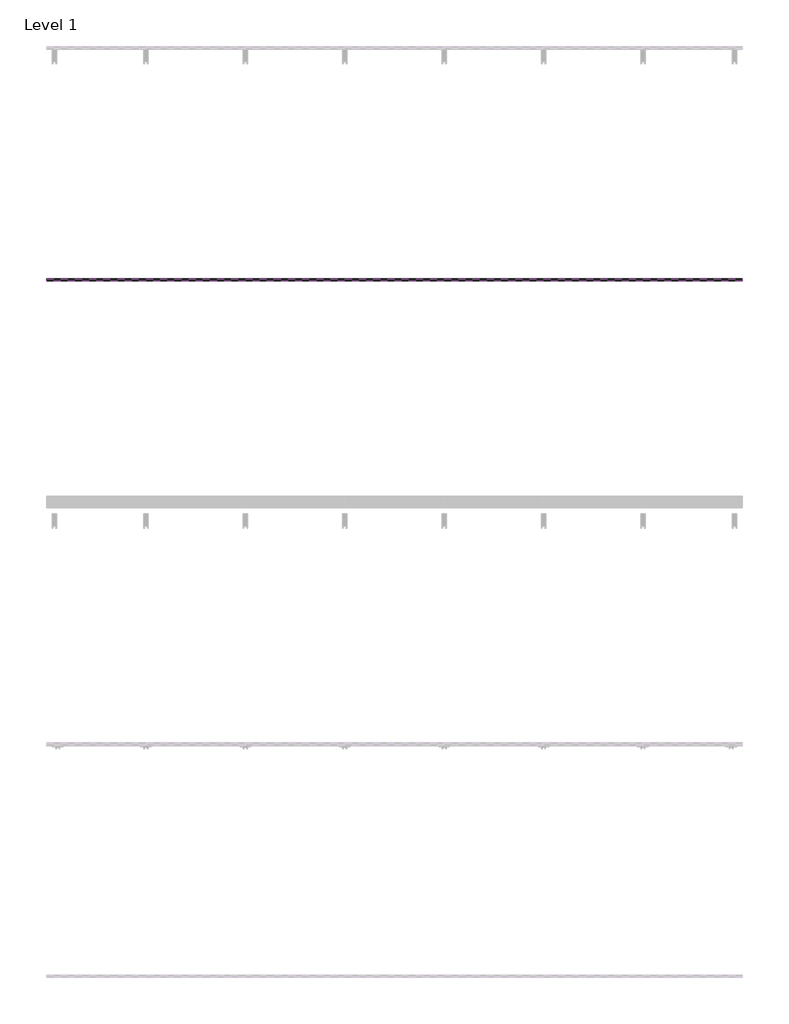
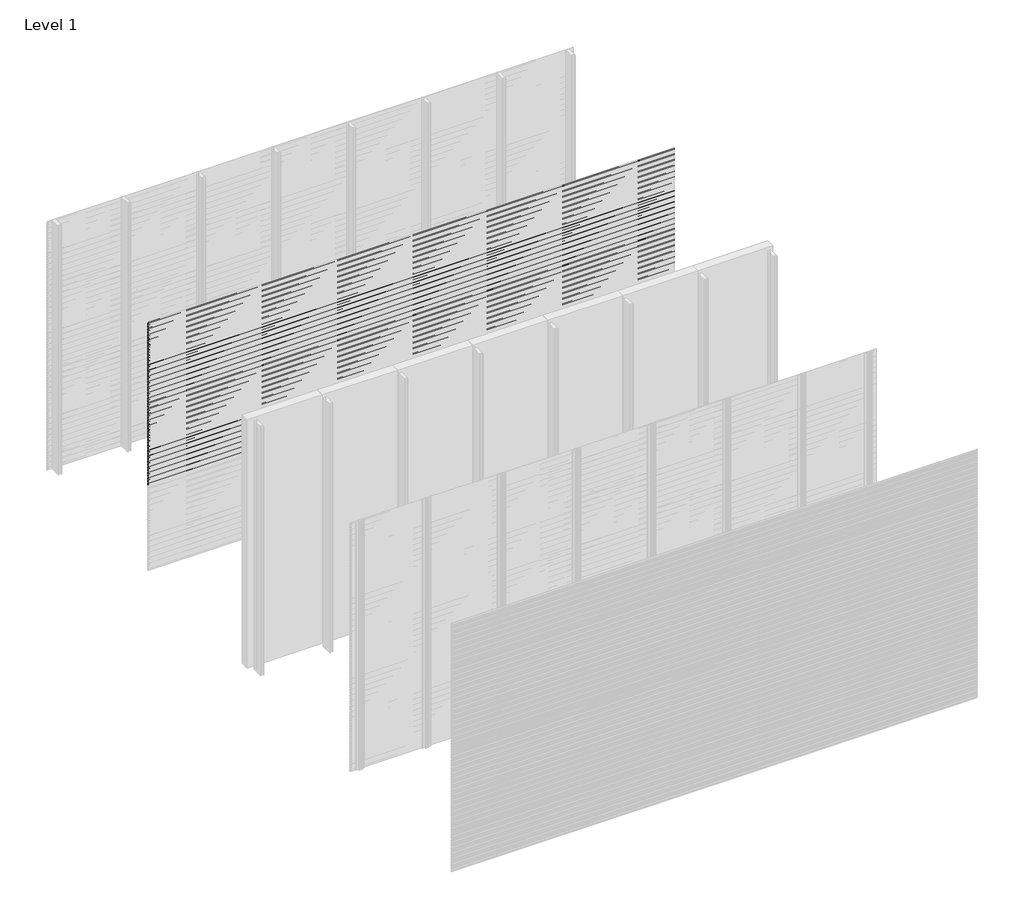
# One storey, part 13 of 96: 77 proxies.
"""IFC4 building model written with IfcOpenShell, lengths in millimetres."""

from ifc_helpers import new_model, si_unit, frame, origin, place, context, project, spatial, polyline, outline, extrude, element, save

model = new_model("IFC4")

# Units and contexts
model_context = context("Model", 3, world=origin())
ifc_project = project(units=[si_unit("LENGTHUNIT", "METRE", prefix="MILLI")], contexts=[model_context])

# Site, building, storey
site = spatial("IfcSite", under=ifc_project)
building = spatial("IfcBuilding", under=site)
storey = spatial("IfcBuildingStorey", under=building, Name="Level 1", Elevation=0.0)

# Proxies
placement = place(None, origin())
element("IfcBuildingElementProxy", 1, Name="Wall Sweeps", at=placement, inside=storey, context=model_context, shape_type="SweptSolid", body=[
    extrude(outline(polyline([(-49977.6, 2971.7655033), (-49977.6, 2957.4779188), (-49982.4114965, 2954.7), (-49982.4114965, 2955.9701706), (-49978.85, 2958.0264016), (-49978.85, 2971.0437382), (-49998.0, 2982.1000799), (-49998.0, 2997.0), (-49996.75, 2997.0), (-49996.75, 2982.8217609), (-49977.6, 2971.7655033)])), frame((0.0, 0.0, 0.0), z_axis=(1.0, 0.0, 0.0), x_axis=(0.0, 1.0, 0.0)), (0.0, 0.0, 1.0), 6000.0),
])
element("IfcBuildingElementProxy", 2, Name="Wall Sweeps", at=placement, inside=storey, context=model_context, shape_type="SweptSolid", body=[
    extrude(outline(polyline([(-49977.6, 2938.4655033), (-49977.6, 2924.1779188), (-49982.4114965, 2921.4), (-49982.4114965, 2922.6701706), (-49978.85, 2924.7264016), (-49978.85, 2937.7437382), (-49998.0, 2948.8000799), (-49998.0, 2963.7), (-49996.75, 2963.7), (-49996.75, 2949.5217609), (-49977.6, 2938.4655033)])), frame((0.0, 0.0, 0.0), z_axis=(1.0, 0.0, 0.0), x_axis=(0.0, 1.0, 0.0)), (0.0, 0.0, 1.0), 6000.0),
])
element("IfcBuildingElementProxy", 3, Name="Wall Sweeps", at=placement, inside=storey, context=model_context, shape_type="SweptSolid", body=[
    extrude(outline(polyline([(-49977.6, 2905.1655033), (-49977.6, 2890.8779188), (-49982.4114965, 2888.1), (-49982.4114965, 2889.3701706), (-49978.85, 2891.4264016), (-49978.85, 2904.4437382), (-49998.0, 2915.5000799), (-49998.0, 2930.4), (-49996.75, 2930.4), (-49996.75, 2916.2217609), (-49977.6, 2905.1655033)])), frame((0.0, 0.0, 0.0), z_axis=(1.0, 0.0, 0.0), x_axis=(0.0, 1.0, 0.0)), (0.0, 0.0, 1.0), 6000.0),
])
element("IfcBuildingElementProxy", 4, Name="Wall Sweeps", at=placement, inside=storey, context=model_context, shape_type="SweptSolid", body=[
    extrude(outline(polyline([(-49977.6, 2871.8655033), (-49977.6, 2857.5779188), (-49982.4114965, 2854.8), (-49982.4114965, 2856.0701706), (-49978.85, 2858.1264016), (-49978.85, 2871.1437382), (-49998.0, 2882.2000799), (-49998.0, 2897.1), (-49996.75, 2897.1), (-49996.75, 2882.9217609), (-49977.6, 2871.8655033)])), frame((0.0, 0.0, 0.0), z_axis=(1.0, 0.0, 0.0), x_axis=(0.0, 1.0, 0.0)), (0.0, 0.0, 1.0), 6000.0),
])
element("IfcBuildingElementProxy", 5, Name="Wall Sweeps", at=placement, inside=storey, context=model_context, shape_type="SweptSolid", body=[
    extrude(outline(polyline([(-49977.6, 2838.5655033), (-49977.6, 2824.2779188), (-49982.4114965, 2821.5), (-49982.4114965, 2822.7701706), (-49978.85, 2824.8264016), (-49978.85, 2837.8437382), (-49998.0, 2848.9000799), (-49998.0, 2863.8), (-49996.75, 2863.8), (-49996.75, 2849.6217609), (-49977.6, 2838.5655033)])), frame((0.0, 0.0, 0.0), z_axis=(1.0, 0.0, 0.0), x_axis=(0.0, 1.0, 0.0)), (0.0, 0.0, 1.0), 6000.0),
])
element("IfcBuildingElementProxy", 6, Name="Wall Sweeps", at=placement, inside=storey, context=model_context, shape_type="SweptSolid", body=[
    extrude(outline(polyline([(-49977.6, 2805.2655033), (-49977.6, 2790.9779188), (-49982.4114965, 2788.2), (-49982.4114965, 2789.4701706), (-49978.85, 2791.5264016), (-49978.85, 2804.5437382), (-49998.0, 2815.6000799), (-49998.0, 2830.5), (-49996.75, 2830.5), (-49996.75, 2816.3217609), (-49977.6, 2805.2655033)])), frame((0.0, 0.0, 0.0), z_axis=(1.0, 0.0, 0.0), x_axis=(0.0, 1.0, 0.0)), (0.0, 0.0, 1.0), 6000.0),
])
element("IfcBuildingElementProxy", 7, Name="Wall Sweeps", at=placement, inside=storey, context=model_context, shape_type="SweptSolid", body=[
    extrude(outline(polyline([(-49977.6, 2771.9655033), (-49977.6, 2757.6779188), (-49982.4114965, 2754.9), (-49982.4114965, 2756.1701706), (-49978.85, 2758.2264016), (-49978.85, 2771.2437382), (-49998.0, 2782.3000799), (-49998.0, 2797.2), (-49996.75, 2797.2), (-49996.75, 2783.0217609), (-49977.6, 2771.9655033)])), frame((0.0, 0.0, 0.0), z_axis=(1.0, 0.0, 0.0), x_axis=(0.0, 1.0, 0.0)), (0.0, 0.0, 1.0), 6000.0),
])
element("IfcBuildingElementProxy", 8, Name="Wall Sweeps", at=placement, inside=storey, context=model_context, shape_type="SweptSolid", body=[
    extrude(outline(polyline([(-49977.6, 2738.6655033), (-49977.6, 2724.3779188), (-49982.4114965, 2721.6), (-49982.4114965, 2722.8701706), (-49978.85, 2724.9264016), (-49978.85, 2737.9437382), (-49998.0, 2749.0000799), (-49998.0, 2763.9), (-49996.75, 2763.9), (-49996.75, 2749.7217609), (-49977.6, 2738.6655033)])), frame((0.0, 0.0, 0.0), z_axis=(1.0, 0.0, 0.0), x_axis=(0.0, 1.0, 0.0)), (0.0, 0.0, 1.0), 6000.0),
])
element("IfcBuildingElementProxy", 9, Name="Wall Sweeps", at=placement, inside=storey, context=model_context, shape_type="SweptSolid", body=[
    extrude(outline(polyline([(-49977.6, 2705.3655033), (-49977.6, 2691.0779188), (-49982.4114965, 2688.3), (-49982.4114965, 2689.5701706), (-49978.85, 2691.6264016), (-49978.85, 2704.6437382), (-49998.0, 2715.7000799), (-49998.0, 2730.6), (-49996.75, 2730.6), (-49996.75, 2716.4217609), (-49977.6, 2705.3655033)])), frame((0.0, 0.0, 0.0), z_axis=(1.0, 0.0, 0.0), x_axis=(0.0, 1.0, 0.0)), (0.0, 0.0, 1.0), 6000.0),
])
element("IfcBuildingElementProxy", 10, Name="Wall Sweeps", at=placement, inside=storey, context=model_context, shape_type="SweptSolid", body=[
    extrude(outline(polyline([(-49977.6, 2672.0655033), (-49977.6, 2657.7779188), (-49982.4114965, 2655.0), (-49982.4114965, 2656.2701706), (-49978.85, 2658.3264016), (-49978.85, 2671.3437382), (-49998.0, 2682.4000799), (-49998.0, 2697.3), (-49996.75, 2697.3), (-49996.75, 2683.1217609), (-49977.6, 2672.0655033)])), frame((0.0, 0.0, 0.0), z_axis=(1.0, 0.0, 0.0), x_axis=(0.0, 1.0, 0.0)), (0.0, 0.0, 1.0), 6000.0),
])
element("IfcBuildingElementProxy", 11, Name="Wall Sweeps", at=placement, inside=storey, context=model_context, shape_type="SweptSolid", body=[
    extrude(outline(polyline([(-49977.6, 2638.7655033), (-49977.6, 2624.4779188), (-49982.4114965, 2621.7), (-49982.4114965, 2622.9701706), (-49978.85, 2625.0264016), (-49978.85, 2638.0437382), (-49998.0, 2649.1000799), (-49998.0, 2664.0), (-49996.75, 2664.0), (-49996.75, 2649.8217609), (-49977.6, 2638.7655033)])), frame((0.0, 0.0, 0.0), z_axis=(1.0, 0.0, 0.0), x_axis=(0.0, 1.0, 0.0)), (0.0, 0.0, 1.0), 6000.0),
])
element("IfcBuildingElementProxy", 12, Name="Wall Sweeps", at=placement, inside=storey, context=model_context, shape_type="SweptSolid", body=[
    extrude(outline(polyline([(-49977.6, 2605.4655033), (-49977.6, 2591.1779188), (-49982.4114965, 2588.4), (-49982.4114965, 2589.6701706), (-49978.85, 2591.7264016), (-49978.85, 2604.7437382), (-49998.0, 2615.8000799), (-49998.0, 2630.7), (-49996.75, 2630.7), (-49996.75, 2616.5217609), (-49977.6, 2605.4655033)])), frame((0.0, 0.0, 0.0), z_axis=(1.0, 0.0, 0.0), x_axis=(0.0, 1.0, 0.0)), (0.0, 0.0, 1.0), 6000.0),
])
element("IfcBuildingElementProxy", 13, Name="Wall Sweeps", at=placement, inside=storey, context=model_context, shape_type="SweptSolid", body=[
    extrude(outline(polyline([(-49977.6, 2572.1655033), (-49977.6, 2557.8779188), (-49982.4114965, 2555.1), (-49982.4114965, 2556.3701706), (-49978.85, 2558.4264016), (-49978.85, 2571.4437382), (-49998.0, 2582.5000799), (-49998.0, 2597.4), (-49996.75, 2597.4), (-49996.75, 2583.2217609), (-49977.6, 2572.1655033)])), frame((0.0, 0.0, 0.0), z_axis=(1.0, 0.0, 0.0), x_axis=(0.0, 1.0, 0.0)), (0.0, 0.0, 1.0), 6000.0),
])
element("IfcBuildingElementProxy", 14, Name="Wall Sweeps", at=placement, inside=storey, context=model_context, shape_type="SweptSolid", body=[
    extrude(outline(polyline([(-49977.6, 2538.8655033), (-49977.6, 2524.5779188), (-49982.4114965, 2521.8), (-49982.4114965, 2523.0701706), (-49978.85, 2525.1264016), (-49978.85, 2538.1437382), (-49998.0, 2549.2000799), (-49998.0, 2564.1), (-49996.75, 2564.1), (-49996.75, 2549.9217609), (-49977.6, 2538.8655033)])), frame((0.0, 0.0, 0.0), z_axis=(1.0, 0.0, 0.0), x_axis=(0.0, 1.0, 0.0)), (0.0, 0.0, 1.0), 6000.0),
])
element("IfcBuildingElementProxy", 15, Name="Wall Sweeps", at=placement, inside=storey, context=model_context, shape_type="SweptSolid", body=[
    extrude(outline(polyline([(-49977.6, 2505.5655033), (-49977.6, 2491.2779188), (-49982.4114965, 2488.5), (-49982.4114965, 2489.7701706), (-49978.85, 2491.8264016), (-49978.85, 2504.8437382), (-49998.0, 2515.9000799), (-49998.0, 2530.8), (-49996.75, 2530.8), (-49996.75, 2516.6217609), (-49977.6, 2505.5655033)])), frame((0.0, 0.0, 0.0), z_axis=(1.0, 0.0, 0.0), x_axis=(0.0, 1.0, 0.0)), (0.0, 0.0, 1.0), 6000.0),
])
element("IfcBuildingElementProxy", 16, Name="Wall Sweeps", at=placement, inside=storey, context=model_context, shape_type="SweptSolid", body=[
    extrude(outline(polyline([(-49977.6, 2472.2655033), (-49977.6, 2457.9779188), (-49982.4114965, 2455.2), (-49982.4114965, 2456.4701706), (-49978.85, 2458.5264016), (-49978.85, 2471.5437382), (-49998.0, 2482.6000799), (-49998.0, 2497.5), (-49996.75, 2497.5), (-49996.75, 2483.3217609), (-49977.6, 2472.2655033)])), frame((0.0, 0.0, 0.0), z_axis=(1.0, 0.0, 0.0), x_axis=(0.0, 1.0, 0.0)), (0.0, 0.0, 1.0), 6000.0),
])
element("IfcBuildingElementProxy", 17, Name="Wall Sweeps", at=placement, inside=storey, context=model_context, shape_type="SweptSolid", body=[
    extrude(outline(polyline([(-49977.6, 2438.9655033), (-49977.6, 2424.6779188), (-49982.4114965, 2421.9), (-49982.4114965, 2423.1701706), (-49978.85, 2425.2264016), (-49978.85, 2438.2437382), (-49998.0, 2449.3000799), (-49998.0, 2464.2), (-49996.75, 2464.2), (-49996.75, 2450.0217609), (-49977.6, 2438.9655033)])), frame((0.0, 0.0, 0.0), z_axis=(1.0, 0.0, 0.0), x_axis=(0.0, 1.0, 0.0)), (0.0, 0.0, 1.0), 6000.0),
])
element("IfcBuildingElementProxy", 18, Name="Wall Sweeps", at=placement, inside=storey, context=model_context, shape_type="SweptSolid", body=[
    extrude(outline(polyline([(-49977.6, 2405.6655033), (-49977.6, 2391.3779188), (-49982.4114965, 2388.6), (-49982.4114965, 2389.8701706), (-49978.85, 2391.9264016), (-49978.85, 2404.9437382), (-49998.0, 2416.0000799), (-49998.0, 2430.9), (-49996.75, 2430.9), (-49996.75, 2416.7217609), (-49977.6, 2405.6655033)])), frame((0.0, 0.0, 0.0), z_axis=(1.0, 0.0, 0.0), x_axis=(0.0, 1.0, 0.0)), (0.0, 0.0, 1.0), 6000.0),
])
element("IfcBuildingElementProxy", 19, Name="Wall Sweeps", at=placement, inside=storey, context=model_context, shape_type="SweptSolid", body=[
    extrude(outline(polyline([(-49977.6, 2372.3655033), (-49977.6, 2358.0779188), (-49982.4114965, 2355.3), (-49982.4114965, 2356.5701706), (-49978.85, 2358.6264016), (-49978.85, 2371.6437382), (-49998.0, 2382.7000799), (-49998.0, 2397.6), (-49996.75, 2397.6), (-49996.75, 2383.4217609), (-49977.6, 2372.3655033)])), frame((0.0, 0.0, 0.0), z_axis=(1.0, 0.0, 0.0), x_axis=(0.0, 1.0, 0.0)), (0.0, 0.0, 1.0), 6000.0),
])
element("IfcBuildingElementProxy", 20, Name="Wall Sweeps", at=placement, inside=storey, context=model_context, shape_type="SweptSolid", body=[
    extrude(outline(polyline([(-49977.6, 2339.0655033), (-49977.6, 2324.7779188), (-49982.4114965, 2322.0), (-49982.4114965, 2323.2701706), (-49978.85, 2325.3264016), (-49978.85, 2338.3437382), (-49998.0, 2349.4000799), (-49998.0, 2364.3), (-49996.75, 2364.3), (-49996.75, 2350.1217609), (-49977.6, 2339.0655033)])), frame((0.0, 0.0, 0.0), z_axis=(1.0, 0.0, 0.0), x_axis=(0.0, 1.0, 0.0)), (0.0, 0.0, 1.0), 6000.0),
])
element("IfcBuildingElementProxy", 21, Name="Wall Sweeps", at=placement, inside=storey, context=model_context, shape_type="SweptSolid", body=[
    extrude(outline(polyline([(-49977.6, 2305.7655033), (-49977.6, 2291.4779188), (-49982.4114965, 2288.7), (-49982.4114965, 2289.9701706), (-49978.85, 2292.0264016), (-49978.85, 2305.0437382), (-49998.0, 2316.1000799), (-49998.0, 2331.0), (-49996.75, 2331.0), (-49996.75, 2316.8217609), (-49977.6, 2305.7655033)])), frame((0.0, 0.0, 0.0), z_axis=(1.0, 0.0, 0.0), x_axis=(0.0, 1.0, 0.0)), (0.0, 0.0, 1.0), 6000.0),
])
element("IfcBuildingElementProxy", 22, Name="Wall Sweeps", at=placement, inside=storey, context=model_context, shape_type="SweptSolid", body=[
    extrude(outline(polyline([(-49977.6, 2272.4655033), (-49977.6, 2258.1779188), (-49982.4114965, 2255.4), (-49982.4114965, 2256.6701706), (-49978.85, 2258.7264016), (-49978.85, 2271.7437382), (-49998.0, 2282.8000799), (-49998.0, 2297.7), (-49996.75, 2297.7), (-49996.75, 2283.5217609), (-49977.6, 2272.4655033)])), frame((0.0, 0.0, 0.0), z_axis=(1.0, 0.0, 0.0), x_axis=(0.0, 1.0, 0.0)), (0.0, 0.0, 1.0), 6000.0),
])
element("IfcBuildingElementProxy", 23, Name="Wall Sweeps", at=placement, inside=storey, context=model_context, shape_type="SweptSolid", body=[
    extrude(outline(polyline([(-49977.6, 2239.1655033), (-49977.6, 2224.8779188), (-49982.4114965, 2222.1), (-49982.4114965, 2223.3701706), (-49978.85, 2225.4264016), (-49978.85, 2238.4437382), (-49998.0, 2249.5000799), (-49998.0, 2264.4), (-49996.75, 2264.4), (-49996.75, 2250.2217609), (-49977.6, 2239.1655033)])), frame((0.0, 0.0, 0.0), z_axis=(1.0, 0.0, 0.0), x_axis=(0.0, 1.0, 0.0)), (0.0, 0.0, 1.0), 6000.0),
])
element("IfcBuildingElementProxy", 24, Name="Wall Sweeps", at=placement, inside=storey, context=model_context, shape_type="SweptSolid", body=[
    extrude(outline(polyline([(-49977.6, 2205.8655033), (-49977.6, 2191.5779188), (-49982.4114965, 2188.8), (-49982.4114965, 2190.0701706), (-49978.85, 2192.1264016), (-49978.85, 2205.1437382), (-49998.0, 2216.2000799), (-49998.0, 2231.1), (-49996.75, 2231.1), (-49996.75, 2216.9217609), (-49977.6, 2205.8655033)])), frame((0.0, 0.0, 0.0), z_axis=(1.0, 0.0, 0.0), x_axis=(0.0, 1.0, 0.0)), (0.0, 0.0, 1.0), 6000.0),
])
element("IfcBuildingElementProxy", 25, Name="Wall Sweeps", at=placement, inside=storey, context=model_context, shape_type="SweptSolid", body=[
    extrude(outline(polyline([(-49977.6, 2172.5655033), (-49977.6, 2158.2779188), (-49982.4114965, 2155.5), (-49982.4114965, 2156.7701706), (-49978.85, 2158.8264016), (-49978.85, 2171.8437382), (-49998.0, 2182.9000799), (-49998.0, 2197.8), (-49996.75, 2197.8), (-49996.75, 2183.6217609), (-49977.6, 2172.5655033)])), frame((0.0, 0.0, 0.0), z_axis=(1.0, 0.0, 0.0), x_axis=(0.0, 1.0, 0.0)), (0.0, 0.0, 1.0), 6000.0),
])
element("IfcBuildingElementProxy", 26, Name="Wall Sweeps", at=placement, inside=storey, context=model_context, shape_type="SweptSolid", body=[
    extrude(outline(polyline([(-49977.6, 2139.2655033), (-49977.6, 2124.9779188), (-49982.4114965, 2122.2), (-49982.4114965, 2123.4701706), (-49978.85, 2125.5264016), (-49978.85, 2138.5437382), (-49998.0, 2149.6000799), (-49998.0, 2164.5), (-49996.75, 2164.5), (-49996.75, 2150.3217609), (-49977.6, 2139.2655033)])), frame((0.0, 0.0, 0.0), z_axis=(1.0, 0.0, 0.0), x_axis=(0.0, 1.0, 0.0)), (0.0, 0.0, 1.0), 6000.0),
])
element("IfcBuildingElementProxy", 27, Name="Wall Sweeps", at=placement, inside=storey, context=model_context, shape_type="SweptSolid", body=[
    extrude(outline(polyline([(-49977.6, 2105.9655033), (-49977.6, 2091.6779188), (-49982.4114965, 2088.9), (-49982.4114965, 2090.1701706), (-49978.85, 2092.2264016), (-49978.85, 2105.2437382), (-49998.0, 2116.3000799), (-49998.0, 2131.2), (-49996.75, 2131.2), (-49996.75, 2117.0217609), (-49977.6, 2105.9655033)])), frame((0.0, 0.0, 0.0), z_axis=(1.0, 0.0, 0.0), x_axis=(0.0, 1.0, 0.0)), (0.0, 0.0, 1.0), 6000.0),
])
element("IfcBuildingElementProxy", 28, Name="Wall Sweeps", at=placement, inside=storey, context=model_context, shape_type="SweptSolid", body=[
    extrude(outline(polyline([(-49977.6, 2072.6655033), (-49977.6, 2058.3779188), (-49982.4114965, 2055.6), (-49982.4114965, 2056.8701706), (-49978.85, 2058.9264016), (-49978.85, 2071.9437382), (-49998.0, 2083.0000799), (-49998.0, 2097.9), (-49996.75, 2097.9), (-49996.75, 2083.7217609), (-49977.6, 2072.6655033)])), frame((0.0, 0.0, 0.0), z_axis=(1.0, 0.0, 0.0), x_axis=(0.0, 1.0, 0.0)), (0.0, 0.0, 1.0), 6000.0),
])
element("IfcBuildingElementProxy", 29, Name="Wall Sweeps", at=placement, inside=storey, context=model_context, shape_type="SweptSolid", body=[
    extrude(outline(polyline([(-49977.6, 2039.3655033), (-49977.6, 2025.0779188), (-49982.4114965, 2022.3), (-49982.4114965, 2023.5701706), (-49978.85, 2025.6264016), (-49978.85, 2038.6437382), (-49998.0, 2049.7000799), (-49998.0, 2064.6), (-49996.75, 2064.6), (-49996.75, 2050.4217609), (-49977.6, 2039.3655033)])), frame((0.0, 0.0, 0.0), z_axis=(1.0, 0.0, 0.0), x_axis=(0.0, 1.0, 0.0)), (0.0, 0.0, 1.0), 6000.0),
])
element("IfcBuildingElementProxy", 30, Name="Wall Sweeps", at=placement, inside=storey, context=model_context, shape_type="SweptSolid", body=[
    extrude(outline(polyline([(-49977.6, 2006.0655033), (-49977.6, 1991.7779188), (-49982.4114965, 1989.0), (-49982.4114965, 1990.2701706), (-49978.85, 1992.3264016), (-49978.85, 2005.3437382), (-49998.0, 2016.4000799), (-49998.0, 2031.3), (-49996.75, 2031.3), (-49996.75, 2017.1217609), (-49977.6, 2006.0655033)])), frame((0.0, 0.0, 0.0), z_axis=(1.0, 0.0, 0.0), x_axis=(0.0, 1.0, 0.0)), (0.0, 0.0, 1.0), 6000.0),
])
element("IfcBuildingElementProxy", 31, Name="Wall Sweeps", at=placement, inside=storey, context=model_context, shape_type="SweptSolid", body=[
    extrude(outline(polyline([(-49977.6, 1972.7655033), (-49977.6, 1958.4779188), (-49982.4114965, 1955.7), (-49982.4114965, 1956.9701706), (-49978.85, 1959.0264016), (-49978.85, 1972.0437382), (-49998.0, 1983.1000799), (-49998.0, 1998.0), (-49996.75, 1998.0), (-49996.75, 1983.8217609), (-49977.6, 1972.7655033)])), frame((0.0, 0.0, 0.0), z_axis=(1.0, 0.0, 0.0), x_axis=(0.0, 1.0, 0.0)), (0.0, 0.0, 1.0), 6000.0),
])
element("IfcBuildingElementProxy", 32, Name="Wall Sweeps", at=placement, inside=storey, context=model_context, shape_type="SweptSolid", body=[
    extrude(outline(polyline([(-49977.6, 1939.4655033), (-49977.6, 1925.1779188), (-49982.4114965, 1922.4), (-49982.4114965, 1923.6701706), (-49978.85, 1925.7264016), (-49978.85, 1938.7437382), (-49998.0, 1949.8000799), (-49998.0, 1964.7), (-49996.75, 1964.7), (-49996.75, 1950.5217609), (-49977.6, 1939.4655033)])), frame((0.0, 0.0, 0.0), z_axis=(1.0, 0.0, 0.0), x_axis=(0.0, 1.0, 0.0)), (0.0, 0.0, 1.0), 6000.0),
])
element("IfcBuildingElementProxy", 33, Name="Wall Sweeps", at=placement, inside=storey, context=model_context, shape_type="SweptSolid", body=[
    extrude(outline(polyline([(-49977.6, 1906.1655033), (-49977.6, 1891.8779188), (-49982.4114965, 1889.1), (-49982.4114965, 1890.3701706), (-49978.85, 1892.4264016), (-49978.85, 1905.4437382), (-49998.0, 1916.5000799), (-49998.0, 1931.4), (-49996.75, 1931.4), (-49996.75, 1917.2217609), (-49977.6, 1906.1655033)])), frame((0.0, 0.0, 0.0), z_axis=(1.0, 0.0, 0.0), x_axis=(0.0, 1.0, 0.0)), (0.0, 0.0, 1.0), 6000.0),
])
element("IfcBuildingElementProxy", 34, Name="Wall Sweeps", at=placement, inside=storey, context=model_context, shape_type="SweptSolid", body=[
    extrude(outline(polyline([(-49977.6, 1872.8655033), (-49977.6, 1858.5779188), (-49982.4114965, 1855.8), (-49982.4114965, 1857.0701706), (-49978.85, 1859.1264016), (-49978.85, 1872.1437382), (-49998.0, 1883.2000799), (-49998.0, 1898.1), (-49996.75, 1898.1), (-49996.75, 1883.9217609), (-49977.6, 1872.8655033)])), frame((0.0, 0.0, 0.0), z_axis=(1.0, 0.0, 0.0), x_axis=(0.0, 1.0, 0.0)), (0.0, 0.0, 1.0), 6000.0),
])
element("IfcBuildingElementProxy", 35, Name="Wall Sweeps", at=placement, inside=storey, context=model_context, shape_type="SweptSolid", body=[
    extrude(outline(polyline([(-49977.6, 1839.5655033), (-49977.6, 1825.2779188), (-49982.4114965, 1822.5), (-49982.4114965, 1823.7701706), (-49978.85, 1825.8264016), (-49978.85, 1838.8437382), (-49998.0, 1849.9000799), (-49998.0, 1864.8), (-49996.75, 1864.8), (-49996.75, 1850.6217609), (-49977.6, 1839.5655033)])), frame((0.0, 0.0, 0.0), z_axis=(1.0, 0.0, 0.0), x_axis=(0.0, 1.0, 0.0)), (0.0, 0.0, 1.0), 6000.0),
])
element("IfcBuildingElementProxy", 36, Name="Wall Sweeps", at=placement, inside=storey, context=model_context, shape_type="SweptSolid", body=[
    extrude(outline(polyline([(-49977.6, 1806.2655033), (-49977.6, 1791.9779188), (-49982.4114965, 1789.2), (-49982.4114965, 1790.4701706), (-49978.85, 1792.5264016), (-49978.85, 1805.5437382), (-49998.0, 1816.6000799), (-49998.0, 1831.5), (-49996.75, 1831.5), (-49996.75, 1817.3217609), (-49977.6, 1806.2655033)])), frame((0.0, 0.0, 0.0), z_axis=(1.0, 0.0, 0.0), x_axis=(0.0, 1.0, 0.0)), (0.0, 0.0, 1.0), 6000.0),
])
element("IfcBuildingElementProxy", 37, Name="Wall Sweeps", at=placement, inside=storey, context=model_context, shape_type="SweptSolid", body=[
    extrude(outline(polyline([(-49977.6, 1772.9655033), (-49977.6, 1758.6779188), (-49982.4114965, 1755.9), (-49982.4114965, 1757.1701706), (-49978.85, 1759.2264016), (-49978.85, 1772.2437382), (-49998.0, 1783.3000799), (-49998.0, 1798.2), (-49996.75, 1798.2), (-49996.75, 1784.0217609), (-49977.6, 1772.9655033)])), frame((0.0, 0.0, 0.0), z_axis=(1.0, 0.0, 0.0), x_axis=(0.0, 1.0, 0.0)), (0.0, 0.0, 1.0), 6000.0),
])
element("IfcBuildingElementProxy", 38, Name="Wall Sweeps", at=placement, inside=storey, context=model_context, shape_type="SweptSolid", body=[
    extrude(outline(polyline([(-49977.6, 1739.6655033), (-49977.6, 1725.3779188), (-49982.4114965, 1722.6), (-49982.4114965, 1723.8701706), (-49978.85, 1725.9264016), (-49978.85, 1738.9437382), (-49998.0, 1750.0000799), (-49998.0, 1764.9), (-49996.75, 1764.9), (-49996.75, 1750.7217609), (-49977.6, 1739.6655033)])), frame((0.0, 0.0, 0.0), z_axis=(1.0, 0.0, 0.0), x_axis=(0.0, 1.0, 0.0)), (0.0, 0.0, 1.0), 6000.0),
])
element("IfcBuildingElementProxy", 39, Name="Wall Sweeps", at=placement, inside=storey, context=model_context, shape_type="SweptSolid", body=[
    extrude(outline(polyline([(-49977.6, 1706.3655033), (-49977.6, 1692.0779188), (-49982.4114965, 1689.3), (-49982.4114965, 1690.5701706), (-49978.85, 1692.6264016), (-49978.85, 1705.6437382), (-49998.0, 1716.7000799), (-49998.0, 1731.6), (-49996.75, 1731.6), (-49996.75, 1717.4217609), (-49977.6, 1706.3655033)])), frame((0.0, 0.0, 0.0), z_axis=(1.0, 0.0, 0.0), x_axis=(0.0, 1.0, 0.0)), (0.0, 0.0, 1.0), 6000.0),
])
element("IfcBuildingElementProxy", 40, Name="Wall Sweeps", at=placement, inside=storey, context=model_context, shape_type="SweptSolid", body=[
    extrude(outline(polyline([(-49977.6, 1673.0655033), (-49977.6, 1658.7779188), (-49982.4114965, 1656.0), (-49982.4114965, 1657.2701706), (-49978.85, 1659.3264016), (-49978.85, 1672.3437382), (-49998.0, 1683.4000799), (-49998.0, 1698.3), (-49996.75, 1698.3), (-49996.75, 1684.1217609), (-49977.6, 1673.0655033)])), frame((0.0, 0.0, 0.0), z_axis=(1.0, 0.0, 0.0), x_axis=(0.0, 1.0, 0.0)), (0.0, 0.0, 1.0), 6000.0),
])
element("IfcBuildingElementProxy", 41, Name="Wall Sweeps", at=placement, inside=storey, context=model_context, shape_type="SweptSolid", body=[
    extrude(outline(polyline([(-49977.6, 1639.7655033), (-49977.6, 1625.4779188), (-49982.4114965, 1622.7), (-49982.4114965, 1623.9701706), (-49978.85, 1626.0264016), (-49978.85, 1639.0437382), (-49998.0, 1650.1000799), (-49998.0, 1665.0), (-49996.75, 1665.0), (-49996.75, 1650.8217609), (-49977.6, 1639.7655033)])), frame((0.0, 0.0, 0.0), z_axis=(1.0, 0.0, 0.0), x_axis=(0.0, 1.0, 0.0)), (0.0, 0.0, 1.0), 6000.0),
])
element("IfcBuildingElementProxy", 42, Name="Wall Sweeps", at=placement, inside=storey, context=model_context, shape_type="SweptSolid", body=[
    extrude(outline(polyline([(-49977.6, 1606.4655033), (-49977.6, 1592.1779188), (-49982.4114965, 1589.4), (-49982.4114965, 1590.6701706), (-49978.85, 1592.7264016), (-49978.85, 1605.7437382), (-49998.0, 1616.8000799), (-49998.0, 1631.7), (-49996.75, 1631.7), (-49996.75, 1617.5217609), (-49977.6, 1606.4655033)])), frame((0.0, 0.0, 0.0), z_axis=(1.0, 0.0, 0.0), x_axis=(0.0, 1.0, 0.0)), (0.0, 0.0, 1.0), 6000.0),
])
element("IfcBuildingElementProxy", 43, Name="Wall Sweeps", at=placement, inside=storey, context=model_context, shape_type="SweptSolid", body=[
    extrude(outline(polyline([(-49977.6, 1573.1655033), (-49977.6, 1558.8779188), (-49982.4114965, 1556.1), (-49982.4114965, 1557.3701706), (-49978.85, 1559.4264016), (-49978.85, 1572.4437382), (-49998.0, 1583.5000799), (-49998.0, 1598.4), (-49996.75, 1598.4), (-49996.75, 1584.2217609), (-49977.6, 1573.1655033)])), frame((0.0, 0.0, 0.0), z_axis=(1.0, 0.0, 0.0), x_axis=(0.0, 1.0, 0.0)), (0.0, 0.0, 1.0), 6000.0),
])
element("IfcBuildingElementProxy", 44, Name="Wall Sweeps", at=placement, inside=storey, context=model_context, shape_type="SweptSolid", body=[
    extrude(outline(polyline([(-49977.6, 1539.8655033), (-49977.6, 1525.5779188), (-49982.4114965, 1522.8), (-49982.4114965, 1524.0701706), (-49978.85, 1526.1264016), (-49978.85, 1539.1437382), (-49998.0, 1550.2000799), (-49998.0, 1565.1), (-49996.75, 1565.1), (-49996.75, 1550.9217609), (-49977.6, 1539.8655033)])), frame((0.0, 0.0, 0.0), z_axis=(1.0, 0.0, 0.0), x_axis=(0.0, 1.0, 0.0)), (0.0, 0.0, 1.0), 6000.0),
])
element("IfcBuildingElementProxy", 45, Name="Wall Sweeps", at=placement, inside=storey, context=model_context, shape_type="SweptSolid", body=[
    extrude(outline(polyline([(-49977.6, 1506.5655033), (-49977.6, 1492.2779188), (-49982.4114965, 1489.5), (-49982.4114965, 1490.7701706), (-49978.85, 1492.8264016), (-49978.85, 1505.8437382), (-49998.0, 1516.9000799), (-49998.0, 1531.8), (-49996.75, 1531.8), (-49996.75, 1517.6217609), (-49977.6, 1506.5655033)])), frame((0.0, 0.0, 0.0), z_axis=(1.0, 0.0, 0.0), x_axis=(0.0, 1.0, 0.0)), (0.0, 0.0, 1.0), 6000.0),
])
element("IfcBuildingElementProxy", 46, Name="Wall Sweeps", at=placement, inside=storey, context=model_context, shape_type="SweptSolid", body=[
    extrude(outline(polyline([(-49977.6, 1473.2655033), (-49977.6, 1458.9779188), (-49982.4114965, 1456.2), (-49982.4114965, 1457.4701706), (-49978.85, 1459.5264016), (-49978.85, 1472.5437382), (-49998.0, 1483.6000799), (-49998.0, 1498.5), (-49996.75, 1498.5), (-49996.75, 1484.3217609), (-49977.6, 1473.2655033)])), frame((0.0, 0.0, 0.0), z_axis=(1.0, 0.0, 0.0), x_axis=(0.0, 1.0, 0.0)), (0.0, 0.0, 1.0), 6000.0),
])
element("IfcBuildingElementProxy", 47, Name="Wall Sweeps", at=placement, inside=storey, context=model_context, shape_type="SweptSolid", body=[
    extrude(outline(polyline([(-49977.6, 1439.9655033), (-49977.6, 1425.6779188), (-49982.4114965, 1422.9), (-49982.4114965, 1424.1701706), (-49978.85, 1426.2264016), (-49978.85, 1439.2437382), (-49998.0, 1450.3000799), (-49998.0, 1465.2), (-49996.75, 1465.2), (-49996.75, 1451.0217609), (-49977.6, 1439.9655033)])), frame((0.0, 0.0, 0.0), z_axis=(1.0, 0.0, 0.0), x_axis=(0.0, 1.0, 0.0)), (0.0, 0.0, 1.0), 6000.0),
])
element("IfcBuildingElementProxy", 48, Name="Wall Sweeps", at=placement, inside=storey, context=model_context, shape_type="SweptSolid", body=[
    extrude(outline(polyline([(-49977.6, 1406.6655033), (-49977.6, 1392.3779188), (-49982.4114965, 1389.6), (-49982.4114965, 1390.8701706), (-49978.85, 1392.9264016), (-49978.85, 1405.9437382), (-49998.0, 1417.0000799), (-49998.0, 1431.9), (-49996.75, 1431.9), (-49996.75, 1417.7217609), (-49977.6, 1406.6655033)])), frame((0.0, 0.0, 0.0), z_axis=(1.0, 0.0, 0.0), x_axis=(0.0, 1.0, 0.0)), (0.0, 0.0, 1.0), 6000.0),
])
element("IfcBuildingElementProxy", 49, Name="Wall Sweeps", at=placement, inside=storey, context=model_context, shape_type="SweptSolid", body=[
    extrude(outline(polyline([(-49977.6, 1373.3655033), (-49977.6, 1359.0779188), (-49982.4114965, 1356.3), (-49982.4114965, 1357.5701706), (-49978.85, 1359.6264016), (-49978.85, 1372.6437382), (-49998.0, 1383.7000799), (-49998.0, 1398.6), (-49996.75, 1398.6), (-49996.75, 1384.4217609), (-49977.6, 1373.3655033)])), frame((0.0, 0.0, 0.0), z_axis=(1.0, 0.0, 0.0), x_axis=(0.0, 1.0, 0.0)), (0.0, 0.0, 1.0), 6000.0),
])
element("IfcBuildingElementProxy", 50, Name="Wall Sweeps", at=placement, inside=storey, context=model_context, shape_type="SweptSolid", body=[
    extrude(outline(polyline([(-49977.6, 1340.0655033), (-49977.6, 1325.7779188), (-49982.4114965, 1323.0), (-49982.4114965, 1324.2701706), (-49978.85, 1326.3264016), (-49978.85, 1339.3437382), (-49998.0, 1350.4000799), (-49998.0, 1365.3), (-49996.75, 1365.3), (-49996.75, 1351.1217609), (-49977.6, 1340.0655033)])), frame((0.0, 0.0, 0.0), z_axis=(1.0, 0.0, 0.0), x_axis=(0.0, 1.0, 0.0)), (0.0, 0.0, 1.0), 6000.0),
])
element("IfcBuildingElementProxy", 51, Name="Wall Sweeps", at=placement, inside=storey, context=model_context, shape_type="SweptSolid", body=[
    extrude(outline(polyline([(-49977.6, 1306.7655033), (-49977.6, 1292.4779188), (-49982.4114965, 1289.7), (-49982.4114965, 1290.9701706), (-49978.85, 1293.0264016), (-49978.85, 1306.0437382), (-49998.0, 1317.1000799), (-49998.0, 1332.0), (-49996.75, 1332.0), (-49996.75, 1317.8217609), (-49977.6, 1306.7655033)])), frame((0.0, 0.0, 0.0), z_axis=(1.0, 0.0, 0.0), x_axis=(0.0, 1.0, 0.0)), (0.0, 0.0, 1.0), 6000.0),
])
element("IfcBuildingElementProxy", 52, Name="Wall Sweeps", at=placement, inside=storey, context=model_context, shape_type="SweptSolid", body=[
    extrude(outline(polyline([(-49977.6, 1273.4655033), (-49977.6, 1259.1779188), (-49982.4114965, 1256.4), (-49982.4114965, 1257.6701706), (-49978.85, 1259.7264016), (-49978.85, 1272.7437382), (-49998.0, 1283.8000799), (-49998.0, 1298.7), (-49996.75, 1298.7), (-49996.75, 1284.5217609), (-49977.6, 1273.4655033)])), frame((0.0, 0.0, 0.0), z_axis=(1.0, 0.0, 0.0), x_axis=(0.0, 1.0, 0.0)), (0.0, 0.0, 1.0), 6000.0),
])
element("IfcBuildingElementProxy", 53, Name="Wall Sweeps", at=placement, inside=storey, context=model_context, shape_type="SweptSolid", body=[
    extrude(outline(polyline([(-49977.6, 1240.1655033), (-49977.6, 1225.8779188), (-49982.4114965, 1223.1), (-49982.4114965, 1224.3701706), (-49978.85, 1226.4264016), (-49978.85, 1239.4437382), (-49998.0, 1250.5000799), (-49998.0, 1265.4), (-49996.75, 1265.4), (-49996.75, 1251.2217609), (-49977.6, 1240.1655033)])), frame((0.0, 0.0, 0.0), z_axis=(1.0, 0.0, 0.0), x_axis=(0.0, 1.0, 0.0)), (0.0, 0.0, 1.0), 6000.0),
])
element("IfcBuildingElementProxy", 54, Name="Wall Sweeps", at=placement, inside=storey, context=model_context, shape_type="SweptSolid", body=[
    extrude(outline(polyline([(-49977.6, 1206.8655033), (-49977.6, 1192.5779188), (-49982.4114965, 1189.8), (-49982.4114965, 1191.0701706), (-49978.85, 1193.1264016), (-49978.85, 1206.1437382), (-49998.0, 1217.2000799), (-49998.0, 1232.1), (-49996.75, 1232.1), (-49996.75, 1217.9217609), (-49977.6, 1206.8655033)])), frame((0.0, 0.0, 0.0), z_axis=(1.0, 0.0, 0.0), x_axis=(0.0, 1.0, 0.0)), (0.0, 0.0, 1.0), 6000.0),
])
element("IfcBuildingElementProxy", 55, Name="Wall Sweeps", at=placement, inside=storey, context=model_context, shape_type="SweptSolid", body=[
    extrude(outline(polyline([(-49977.6, 1173.5655033), (-49977.6, 1159.2779188), (-49982.4114965, 1156.5), (-49982.4114965, 1157.7701706), (-49978.85, 1159.8264016), (-49978.85, 1172.8437382), (-49998.0, 1183.9000799), (-49998.0, 1198.8), (-49996.75, 1198.8), (-49996.75, 1184.6217609), (-49977.6, 1173.5655033)])), frame((0.0, 0.0, 0.0), z_axis=(1.0, 0.0, 0.0), x_axis=(0.0, 1.0, 0.0)), (0.0, 0.0, 1.0), 6000.0),
])
element("IfcBuildingElementProxy", 56, Name="Wall Sweeps", at=placement, inside=storey, context=model_context, shape_type="SweptSolid", body=[
    extrude(outline(polyline([(-49977.6, 1140.2655033), (-49977.6, 1125.9779188), (-49982.4114965, 1123.2), (-49982.4114965, 1124.4701706), (-49978.85, 1126.5264016), (-49978.85, 1139.5437382), (-49998.0, 1150.6000799), (-49998.0, 1165.5), (-49996.75, 1165.5), (-49996.75, 1151.3217609), (-49977.6, 1140.2655033)])), frame((0.0, 0.0, 0.0), z_axis=(1.0, 0.0, 0.0), x_axis=(0.0, 1.0, 0.0)), (0.0, 0.0, 1.0), 6000.0),
])
element("IfcBuildingElementProxy", 57, Name="Wall Sweeps", at=placement, inside=storey, context=model_context, shape_type="SweptSolid", body=[
    extrude(outline(polyline([(-49977.6, 1106.9655033), (-49977.6, 1092.6779188), (-49982.4114965, 1089.9), (-49982.4114965, 1091.1701706), (-49978.85, 1093.2264016), (-49978.85, 1106.2437382), (-49998.0, 1117.3000799), (-49998.0, 1132.2), (-49996.75, 1132.2), (-49996.75, 1118.0217609), (-49977.6, 1106.9655033)])), frame((0.0, 0.0, 0.0), z_axis=(1.0, 0.0, 0.0), x_axis=(0.0, 1.0, 0.0)), (0.0, 0.0, 1.0), 6000.0),
])
element("IfcBuildingElementProxy", 58, Name="Wall Sweeps", at=placement, inside=storey, context=model_context, shape_type="SweptSolid", body=[
    extrude(outline(polyline([(-49977.6, 1073.6655033), (-49977.6, 1059.3779188), (-49982.4114965, 1056.6), (-49982.4114965, 1057.8701706), (-49978.85, 1059.9264016), (-49978.85, 1072.9437382), (-49998.0, 1084.0000799), (-49998.0, 1098.9), (-49996.75, 1098.9), (-49996.75, 1084.7217609), (-49977.6, 1073.6655033)])), frame((0.0, 0.0, 0.0), z_axis=(1.0, 0.0, 0.0), x_axis=(0.0, 1.0, 0.0)), (0.0, 0.0, 1.0), 6000.0),
])
element("IfcBuildingElementProxy", 59, Name="Wall Sweeps", at=placement, inside=storey, context=model_context, shape_type="SweptSolid", body=[
    extrude(outline(polyline([(-49977.6, 1040.3655033), (-49977.6, 1026.0779188), (-49982.4114965, 1023.3), (-49982.4114965, 1024.5701706), (-49978.85, 1026.6264016), (-49978.85, 1039.6437382), (-49998.0, 1050.7000799), (-49998.0, 1065.6), (-49996.75, 1065.6), (-49996.75, 1051.4217609), (-49977.6, 1040.3655033)])), frame((0.0, 0.0, 0.0), z_axis=(1.0, 0.0, 0.0), x_axis=(0.0, 1.0, 0.0)), (0.0, 0.0, 1.0), 6000.0),
])
element("IfcBuildingElementProxy", 60, Name="Wall Sweeps", at=placement, inside=storey, context=model_context, shape_type="SweptSolid", body=[
    extrude(outline(polyline([(-53977.6, 574.1655033), (-53977.6, 559.8779188), (-53982.4114965, 557.1), (-53982.4114965, 558.3701706), (-53978.85, 560.4264016), (-53978.85, 573.4437382), (-53998.0, 584.5000799), (-53998.0, 599.4), (-53996.75, 599.4), (-53996.75, 585.2217609), (-53977.6, 574.1655033)])), frame((5142.8571429, 0.0, 0.0), z_axis=(1.0, 0.0, 0.0), x_axis=(0.0, 1.0, 0.0)), (0.0, 0.0, 1.0), 857.1428571),
])
element("IfcBuildingElementProxy", 61, Name="Wall Sweeps", at=placement, inside=storey, context=model_context, shape_type="SweptSolid", body=[
    extrude(outline(polyline([(-53977.6, 540.8655033), (-53977.6, 526.5779188), (-53982.4114965, 523.8), (-53982.4114965, 525.0701706), (-53978.85, 527.1264016), (-53978.85, 540.1437382), (-53998.0, 551.2000799), (-53998.0, 566.1), (-53996.75, 566.1), (-53996.75, 551.9217609), (-53977.6, 540.8655033)])), frame((5142.8571429, 0.0, 0.0), z_axis=(1.0, 0.0, 0.0), x_axis=(0.0, 1.0, 0.0)), (0.0, 0.0, 1.0), 857.1428571),
])
element("IfcBuildingElementProxy", 62, Name="Wall Sweeps", at=placement, inside=storey, context=model_context, shape_type="SweptSolid", body=[
    extrude(outline(polyline([(-53977.6, 507.5655033), (-53977.6, 493.2779188), (-53982.4114965, 490.5), (-53982.4114965, 491.7701706), (-53978.85, 493.8264016), (-53978.85, 506.8437382), (-53998.0, 517.9000799), (-53998.0, 532.8), (-53996.75, 532.8), (-53996.75, 518.6217609), (-53977.6, 507.5655033)])), frame((5142.8571429, 0.0, 0.0), z_axis=(1.0, 0.0, 0.0), x_axis=(0.0, 1.0, 0.0)), (0.0, 0.0, 1.0), 857.1428571),
])
element("IfcBuildingElementProxy", 63, Name="Wall Sweeps", at=placement, inside=storey, context=model_context, shape_type="SweptSolid", body=[
    extrude(outline(polyline([(-53977.6, 474.2655033), (-53977.6, 459.9779188), (-53982.4114965, 457.2), (-53982.4114965, 458.4701706), (-53978.85, 460.5264016), (-53978.85, 473.5437382), (-53998.0, 484.6000799), (-53998.0, 499.5), (-53996.75, 499.5), (-53996.75, 485.3217609), (-53977.6, 474.2655033)])), frame((5142.8571429, 0.0, 0.0), z_axis=(1.0, 0.0, 0.0), x_axis=(0.0, 1.0, 0.0)), (0.0, 0.0, 1.0), 857.1428571),
])
element("IfcBuildingElementProxy", 64, Name="Wall Sweeps", at=placement, inside=storey, context=model_context, shape_type="SweptSolid", body=[
    extrude(outline(polyline([(-53977.6, 440.9655033), (-53977.6, 426.6779188), (-53982.4114965, 423.9), (-53982.4114965, 425.1701706), (-53978.85, 427.2264016), (-53978.85, 440.2437382), (-53998.0, 451.3000799), (-53998.0, 466.2), (-53996.75, 466.2), (-53996.75, 452.0217609), (-53977.6, 440.9655033)])), frame((5142.8571429, 0.0, 0.0), z_axis=(1.0, 0.0, 0.0), x_axis=(0.0, 1.0, 0.0)), (0.0, 0.0, 1.0), 857.1428571),
])
element("IfcBuildingElementProxy", 65, Name="Wall Sweeps", at=placement, inside=storey, context=model_context, shape_type="SweptSolid", body=[
    extrude(outline(polyline([(-53977.6, 407.6655033), (-53977.6, 393.3779188), (-53982.4114965, 390.6), (-53982.4114965, 391.8701706), (-53978.85, 393.9264016), (-53978.85, 406.9437382), (-53998.0, 418.0000799), (-53998.0, 432.9), (-53996.75, 432.9), (-53996.75, 418.7217609), (-53977.6, 407.6655033)])), frame((5142.8571429, 0.0, 0.0), z_axis=(1.0, 0.0, 0.0), x_axis=(0.0, 1.0, 0.0)), (0.0, 0.0, 1.0), 857.1428571),
])
element("IfcBuildingElementProxy", 66, Name="Wall Sweeps", at=placement, inside=storey, context=model_context, shape_type="SweptSolid", body=[
    extrude(outline(polyline([(-53977.6, 374.3655033), (-53977.6, 360.0779188), (-53982.4114965, 357.3), (-53982.4114965, 358.5701706), (-53978.85, 360.6264016), (-53978.85, 373.6437382), (-53998.0, 384.7000799), (-53998.0, 399.6), (-53996.75, 399.6), (-53996.75, 385.4217609), (-53977.6, 374.3655033)])), frame((5142.8571429, 0.0, 0.0), z_axis=(1.0, 0.0, 0.0), x_axis=(0.0, 1.0, 0.0)), (0.0, 0.0, 1.0), 857.1428571),
])
element("IfcBuildingElementProxy", 67, Name="Wall Sweeps", at=placement, inside=storey, context=model_context, shape_type="SweptSolid", body=[
    extrude(outline(polyline([(-53977.6, 341.0655033), (-53977.6, 326.7779188), (-53982.4114965, 324.0), (-53982.4114965, 325.2701706), (-53978.85, 327.3264016), (-53978.85, 340.3437382), (-53998.0, 351.4000799), (-53998.0, 366.3), (-53996.75, 366.3), (-53996.75, 352.1217609), (-53977.6, 341.0655033)])), frame((5142.8571429, 0.0, 0.0), z_axis=(1.0, 0.0, 0.0), x_axis=(0.0, 1.0, 0.0)), (0.0, 0.0, 1.0), 857.1428571),
])
element("IfcBuildingElementProxy", 68, Name="Wall Sweeps", at=placement, inside=storey, context=model_context, shape_type="SweptSolid", body=[
    extrude(outline(polyline([(-53977.6, 307.7655033), (-53977.6, 293.4779188), (-53982.4114965, 290.7), (-53982.4114965, 291.9701706), (-53978.85, 294.0264016), (-53978.85, 307.0437382), (-53998.0, 318.1000799), (-53998.0, 333.0), (-53996.75, 333.0), (-53996.75, 318.8217609), (-53977.6, 307.7655033)])), frame((5142.8571429, 0.0, 0.0), z_axis=(1.0, 0.0, 0.0), x_axis=(0.0, 1.0, 0.0)), (0.0, 0.0, 1.0), 857.1428571),
])
element("IfcBuildingElementProxy", 69, Name="Wall Sweeps", at=placement, inside=storey, context=model_context, shape_type="SweptSolid", body=[
    extrude(outline(polyline([(-53977.6, 274.4655033), (-53977.6, 260.1779188), (-53982.4114965, 257.4), (-53982.4114965, 258.6701706), (-53978.85, 260.7264016), (-53978.85, 273.7437382), (-53998.0, 284.8000799), (-53998.0, 299.7), (-53996.75, 299.7), (-53996.75, 285.5217609), (-53977.6, 274.4655033)])), frame((5142.8571429, 0.0, 0.0), z_axis=(1.0, 0.0, 0.0), x_axis=(0.0, 1.0, 0.0)), (0.0, 0.0, 1.0), 857.1428571),
])
element("IfcBuildingElementProxy", 70, Name="Wall Sweeps", at=placement, inside=storey, context=model_context, shape_type="SweptSolid", body=[
    extrude(outline(polyline([(-53977.6, 241.1655033), (-53977.6, 226.8779188), (-53982.4114965, 224.1), (-53982.4114965, 225.3701706), (-53978.85, 227.4264016), (-53978.85, 240.4437382), (-53998.0, 251.5000799), (-53998.0, 266.4), (-53996.75, 266.4), (-53996.75, 252.2217609), (-53977.6, 241.1655033)])), frame((5142.8571429, 0.0, 0.0), z_axis=(1.0, 0.0, 0.0), x_axis=(0.0, 1.0, 0.0)), (0.0, 0.0, 1.0), 857.1428571),
])
element("IfcBuildingElementProxy", 71, Name="Wall Sweeps", at=placement, inside=storey, context=model_context, shape_type="SweptSolid", body=[
    extrude(outline(polyline([(-53977.6, 207.8655033), (-53977.6, 193.5779188), (-53982.4114965, 190.8), (-53982.4114965, 192.0701706), (-53978.85, 194.1264016), (-53978.85, 207.1437382), (-53998.0, 218.2000799), (-53998.0, 233.1), (-53996.75, 233.1), (-53996.75, 218.9217609), (-53977.6, 207.8655033)])), frame((5142.8571429, 0.0, 0.0), z_axis=(1.0, 0.0, 0.0), x_axis=(0.0, 1.0, 0.0)), (0.0, 0.0, 1.0), 857.1428571),
])
element("IfcBuildingElementProxy", 72, Name="Wall Sweeps", at=placement, inside=storey, context=model_context, shape_type="SweptSolid", body=[
    extrude(outline(polyline([(-53977.6, 174.5655033), (-53977.6, 160.2779188), (-53982.4114965, 157.5), (-53982.4114965, 158.7701706), (-53978.85, 160.8264016), (-53978.85, 173.8437382), (-53998.0, 184.9000799), (-53998.0, 199.8), (-53996.75, 199.8), (-53996.75, 185.6217609), (-53977.6, 174.5655033)])), frame((5142.8571429, 0.0, 0.0), z_axis=(1.0, 0.0, 0.0), x_axis=(0.0, 1.0, 0.0)), (0.0, 0.0, 1.0), 857.1428571),
])
element("IfcBuildingElementProxy", 73, Name="Wall Sweeps", at=placement, inside=storey, context=model_context, shape_type="SweptSolid", body=[
    extrude(outline(polyline([(-53977.6, 141.2655033), (-53977.6, 126.9779188), (-53982.4114965, 124.2), (-53982.4114965, 125.4701706), (-53978.85, 127.5264016), (-53978.85, 140.5437382), (-53998.0, 151.6000799), (-53998.0, 166.5), (-53996.75, 166.5), (-53996.75, 152.3217609), (-53977.6, 141.2655033)])), frame((5142.8571429, 0.0, 0.0), z_axis=(1.0, 0.0, 0.0), x_axis=(0.0, 1.0, 0.0)), (0.0, 0.0, 1.0), 857.1428571),
])
element("IfcBuildingElementProxy", 74, Name="Wall Sweeps", at=placement, inside=storey, context=model_context, shape_type="SweptSolid", body=[
    extrude(outline(polyline([(-53977.6, 107.9655033), (-53977.6, 93.6779188), (-53982.4114965, 90.9), (-53982.4114965, 92.1701706), (-53978.85, 94.2264016), (-53978.85, 107.2437382), (-53998.0, 118.3000799), (-53998.0, 133.2), (-53996.75, 133.2), (-53996.75, 119.0217609), (-53977.6, 107.9655033)])), frame((5142.8571429, 0.0, 0.0), z_axis=(1.0, 0.0, 0.0), x_axis=(0.0, 1.0, 0.0)), (0.0, 0.0, 1.0), 857.1428571),
])
element("IfcBuildingElementProxy", 75, Name="Wall Sweeps", at=placement, inside=storey, context=model_context, shape_type="SweptSolid", body=[
    extrude(outline(polyline([(-53977.6, 74.6655033), (-53977.6, 60.3779188), (-53982.4114965, 57.6), (-53982.4114965, 58.8701706), (-53978.85, 60.9264016), (-53978.85, 73.9437382), (-53998.0, 85.0000799), (-53998.0, 99.9), (-53996.75, 99.9), (-53996.75, 85.7217609), (-53977.6, 74.6655033)])), frame((5142.8571429, 0.0, 0.0), z_axis=(1.0, 0.0, 0.0), x_axis=(0.0, 1.0, 0.0)), (0.0, 0.0, 1.0), 857.1428571),
])
element("IfcBuildingElementProxy", 76, Name="Wall Sweeps", at=placement, inside=storey, context=model_context, shape_type="SweptSolid", body=[
    extrude(outline(polyline([(-53977.6, 41.3655033), (-53977.6, 27.0779188), (-53982.4114965, 24.3), (-53982.4114965, 25.5701706), (-53978.85, 27.6264016), (-53978.85, 40.6437382), (-53998.0, 51.7000799), (-53998.0, 66.6), (-53996.75, 66.6), (-53996.75, 52.4217609), (-53977.6, 41.3655033)])), frame((5142.8571429, 0.0, 0.0), z_axis=(1.0, 0.0, 0.0), x_axis=(0.0, 1.0, 0.0)), (0.0, 0.0, 1.0), 857.1428571),
])
element("IfcBuildingElementProxy", 77, Name="Wall Sweeps", at=placement, inside=storey, context=model_context, shape_type="SweptSolid", body=[
    extrude(outline(polyline([(-53977.6, 8.0655033), (-53977.6, -6.2220812), (-53982.4114965, -9.0), (-53982.4114965, -7.7298294), (-53978.85, -5.6735984), (-53978.85, 7.3437382), (-53998.0, 18.4000799), (-53998.0, 33.3), (-53996.75, 33.3), (-53996.75, 19.1217609), (-53977.6, 8.0655033)])), frame((5142.8571429, 0.0, 0.0), z_axis=(1.0, 0.0, 0.0), x_axis=(0.0, 1.0, 0.0)), (0.0, 0.0, 1.0), 857.1428571),
])

save(model, "model.ifc")
